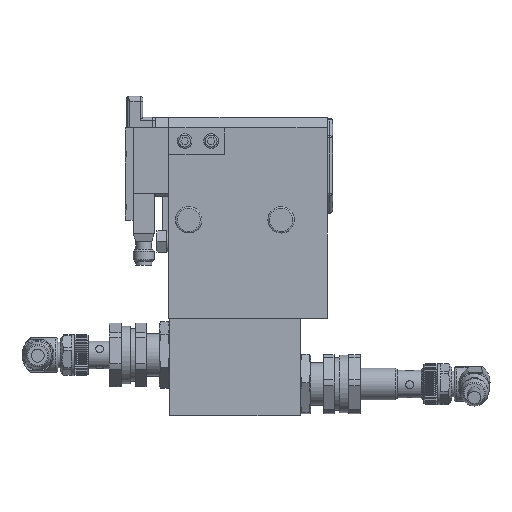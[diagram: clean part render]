
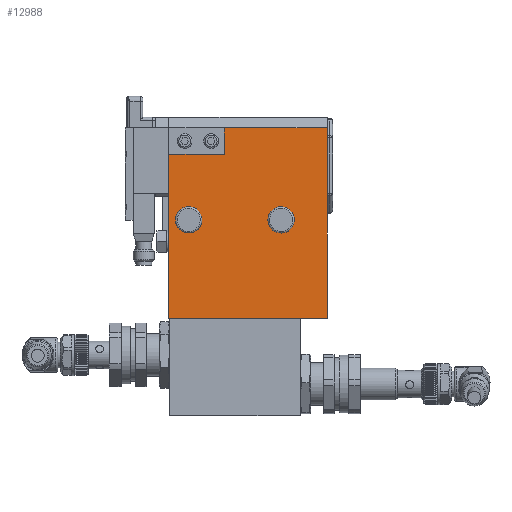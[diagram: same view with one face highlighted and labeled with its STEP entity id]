
A CAD part, front view. The second image highlights one B-rep face of the part: STEP entity #12988.
In plain terms, the highlighted planar face has unit normal (0, -1, 0).
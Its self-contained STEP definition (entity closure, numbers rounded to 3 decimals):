
#542=FACE_BOUND('',#1981,.T.);
#543=FACE_BOUND('',#1982,.T.);
#728=CIRCLE('',#13763,5.);
#729=CIRCLE('',#13764,5.);
#1211=FACE_OUTER_BOUND('',#1980,.T.);
#1980=EDGE_LOOP('',(#8169,#8170,#8171,#8172,#8173,#8174,#8175));
#1981=EDGE_LOOP('',(#8176));
#1982=EDGE_LOOP('',(#8177));
#2896=LINE('',#18329,#3975);
#2897=LINE('',#18331,#3976);
#2898=LINE('',#18333,#3977);
#2899=LINE('',#18335,#3978);
#2900=LINE('',#18337,#3979);
#2901=LINE('',#18339,#3980);
#2902=LINE('',#18340,#3981);
#3975=VECTOR('',#14938,21.);
#3976=VECTOR('',#14939,15.);
#3977=VECTOR('',#14940,47.);
#3978=VECTOR('',#14941,60.);
#3979=VECTOR('',#14942,72.);
#3980=VECTOR('',#14943,39.);
#3981=VECTOR('',#14944,10.);
#5074=VERTEX_POINT('',#18327);
#5075=VERTEX_POINT('',#18328);
#5076=VERTEX_POINT('',#18330);
#5077=VERTEX_POINT('',#18332);
#5078=VERTEX_POINT('',#18334);
#5079=VERTEX_POINT('',#18336);
#5080=VERTEX_POINT('',#18338);
#5081=VERTEX_POINT('',#18341);
#5082=VERTEX_POINT('',#18343);
#6322=EDGE_CURVE('',#5074,#5075,#2896,.T.);
#6323=EDGE_CURVE('',#5074,#5076,#2897,.T.);
#6324=EDGE_CURVE('',#5076,#5077,#2898,.T.);
#6325=EDGE_CURVE('',#5077,#5078,#2899,.T.);
#6326=EDGE_CURVE('',#5078,#5079,#2900,.T.);
#6327=EDGE_CURVE('',#5079,#5080,#2901,.T.);
#6328=EDGE_CURVE('',#5075,#5080,#2902,.T.);
#6329=EDGE_CURVE('',#5081,#5081,#728,.T.);
#6330=EDGE_CURVE('',#5082,#5082,#729,.T.);
#8169=ORIENTED_EDGE('',*,*,#6322,.F.);
#8170=ORIENTED_EDGE('',*,*,#6323,.T.);
#8171=ORIENTED_EDGE('',*,*,#6324,.T.);
#8172=ORIENTED_EDGE('',*,*,#6325,.T.);
#8173=ORIENTED_EDGE('',*,*,#6326,.T.);
#8174=ORIENTED_EDGE('',*,*,#6327,.T.);
#8175=ORIENTED_EDGE('',*,*,#6328,.F.);
#8176=ORIENTED_EDGE('',*,*,#6329,.F.);
#8177=ORIENTED_EDGE('',*,*,#6330,.F.);
#11726=PLANE('',#13762);
#12988=ADVANCED_FACE('',(#1211,#542,#543),#11726,.F.);
#13762=AXIS2_PLACEMENT_3D('',#18326,#14936,#14937);
#13763=AXIS2_PLACEMENT_3D('',#18342,#14945,#14946);
#13764=AXIS2_PLACEMENT_3D('',#18344,#14947,#14948);
#14936=DIRECTION('center_axis',(0.,1.,0.));
#14937=DIRECTION('ref_axis',(-1.,0.,0.));
#14938=DIRECTION('',(1.,0.,0.));
#14939=DIRECTION('',(0.,0.,-1.));
#14940=DIRECTION('',(0.,0.,-1.));
#14941=DIRECTION('',(1.,0.,0.));
#14942=DIRECTION('',(0.,0.,1.));
#14943=DIRECTION('',(-1.,0.,0.));
#14944=DIRECTION('',(0.,0.,1.));
#14945=DIRECTION('center_axis',(0.,-1.,0.));
#14946=DIRECTION('ref_axis',(0.716,0.,-0.698));
#14947=DIRECTION('center_axis',(0.,-1.,0.));
#14948=DIRECTION('ref_axis',(-0.978,0.,-0.207));
#18326=CARTESIAN_POINT('Origin',(0.,0.,
113.));
#18327=CARTESIAN_POINT('',(0.,0.,99.));
#18328=CARTESIAN_POINT('',(21.,0.,99.));
#18329=CARTESIAN_POINT('',(0.,0.,99.));
#18330=CARTESIAN_POINT('',(0.,0.,84.));
#18331=CARTESIAN_POINT('',(0.,0.,99.));
#18332=CARTESIAN_POINT('',(0.,0.,37.));
#18333=CARTESIAN_POINT('',(0.,0.,84.));
#18334=CARTESIAN_POINT('',(60.,0.,37.));
#18335=CARTESIAN_POINT('',(0.,0.,37.));
#18336=CARTESIAN_POINT('',(60.,0.,109.));
#18337=CARTESIAN_POINT('',(60.,0.,37.));
#18338=CARTESIAN_POINT('',(21.,0.,109.));
#18339=CARTESIAN_POINT('',(60.,0.,109.));
#18340=CARTESIAN_POINT('',(21.,0.,99.));
#18341=CARTESIAN_POINT('',(3.919,0.,77.69));
#18342=CARTESIAN_POINT('Origin',(7.5,0.,
74.2));
#18343=CARTESIAN_POINT('',(47.392,0.,75.233));
#18344=CARTESIAN_POINT('Origin',(42.5,0.,
74.2));
